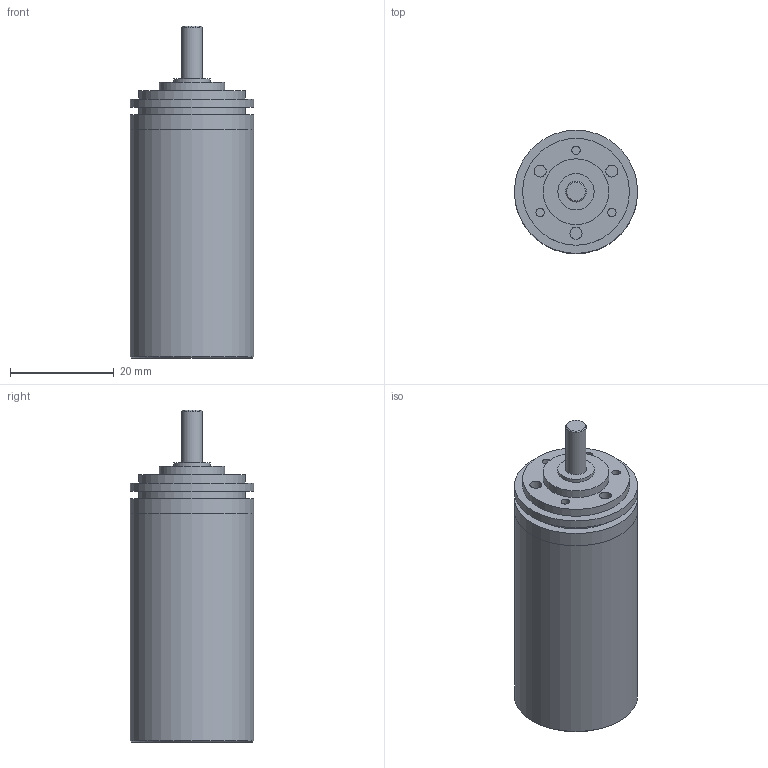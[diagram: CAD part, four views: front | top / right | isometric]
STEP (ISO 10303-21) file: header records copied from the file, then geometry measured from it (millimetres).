
FILE_DESCRIPTION(/* description */ (''),/* implementation_level */ '2;1');
FILE_NAME(/* name */ '22-2K_4.stp',/* time_stamp */ '2016-08-26T11:29:37+02:00',/* author */ ('DR. FRITZ FAULHABER GmbH & Co. KG'),/* organization */ ('DR. FRITZ FAULHABER GmbH & Co. KG'),/* preprocessor_version */ 'ST-DEVELOPER v16',/* originating_system */ 'SIEMENS PLM Software NX 10.0',/* authorisation */ '');
FILE_SCHEMA (('AUTOMOTIVE_DESIGN { 1 0 10303 214 3 1 1 1 }'));
Length unit declared in the file: millimetre
Products named in the file (1): H00000844_A
Bounding box: 23.8 x 23.8 x 64.1 mm (x, y, z)
Volume: 15056.5 mm3; surface area: 6819.2 mm2
Topology: 1 solids, 1 shells, 42 faces, 65 edges, 43 vertices
Faces by surface type: plane 20, cylinder 19, cone 3
Full cylindrical faces by diameter (mm): 1.6 x3, 2.329 x3, 3.5 x1, 4 x1, 4.5 x1, 7 x2, 12.7 x1, 20.63 x2, 22 x1, 23.79 x1, 23.8 x3
Entity records: 858 total; most frequent: DIRECTION 168, CARTESIAN_POINT 125, AXIS2_PLACEMENT_3D 84, EDGE_LOOP 82, ORIENTED_EDGE 82, FACE_BOUND 74, ADVANCED_FACE 42, VERTEX_POINT 41
